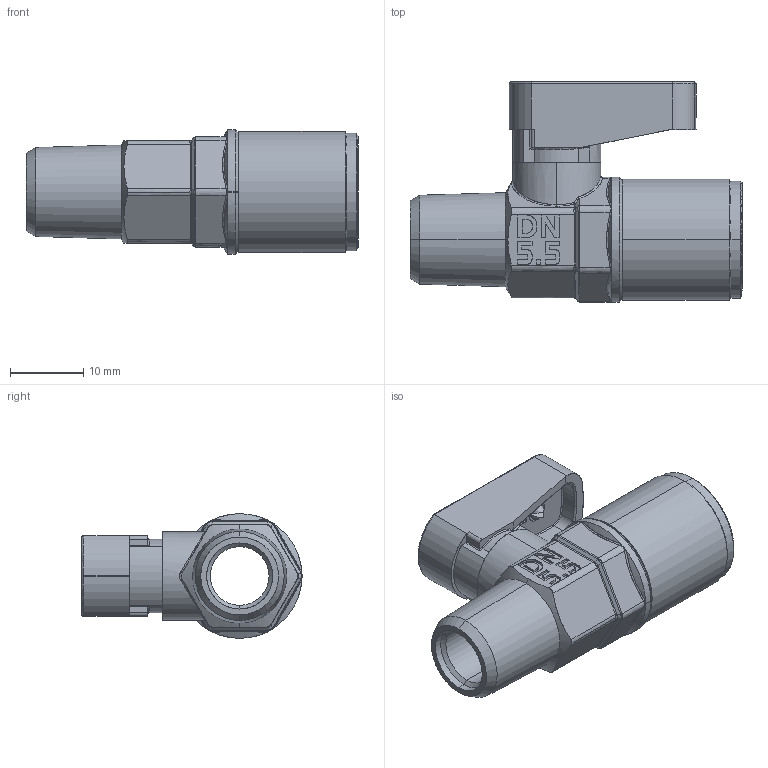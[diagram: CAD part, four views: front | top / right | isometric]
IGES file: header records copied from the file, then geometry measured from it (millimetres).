
Start section: SolidWorks IGES file using analytic representation for surfaces
Global section: file name: C:\Users\cad06\Desktop\Nuova cartella\8631000002.IGS; native system: SolidWorks 2016; preprocessor: SolidWorks 2016; author: cad06; date: 160523.170933; units: millimetre
Bounding box: 45.25 x 30.01 x 17 mm (x, y, z)
Surface area: 4687.1 mm2 (no closed solid volume)
Topology: 0 solids, 0 shells, 482 faces, 3894 edges, 3894 vertices
Faces by surface type: bspline 341, revolution 141
